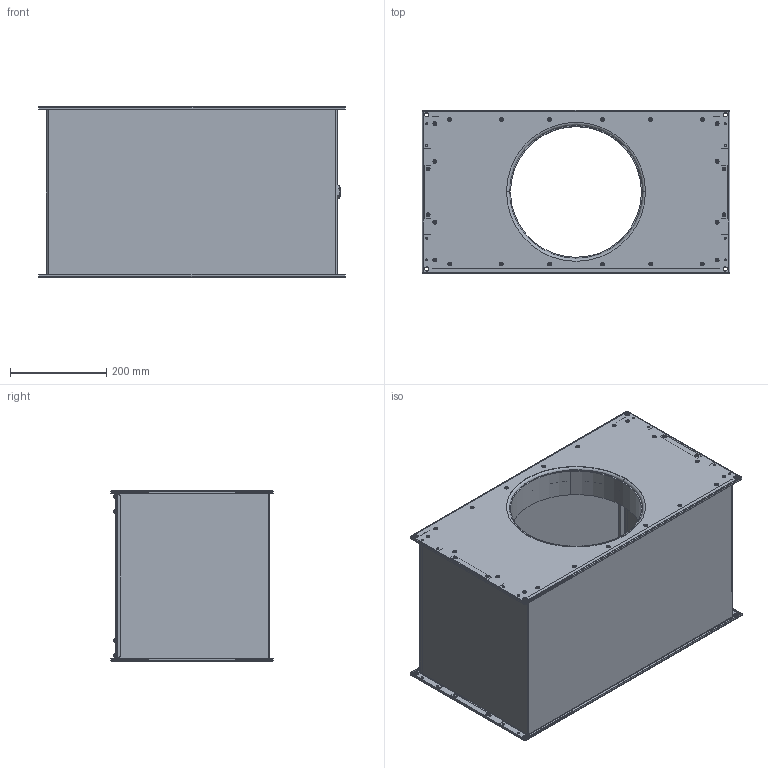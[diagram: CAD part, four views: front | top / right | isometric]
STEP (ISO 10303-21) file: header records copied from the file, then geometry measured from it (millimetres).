
FILE_DESCRIPTION (( 'STEP AP203' ), '1' );
FILE_NAME ('136744-00_EMKI6030EC20.STEP', '2016-04-20T05:17:41', ( '' ), ( '' ), 'SwSTEP 2.0', 'SolidWorks 2012', '' );
FILE_SCHEMA (( 'CONFIG_CONTROL_DESIGN' ));
Length unit declared in the file: millimetre
Products named in the file (1): 136744-00_EMKI6030EC20
Bounding box: 639 x 338 x 355.8 mm (x, y, z)
Surface area: 2135629.6 mm2 (no closed solid volume)
Topology: 0 solids, 117 shells, 661 faces, 2252 edges, 1646 vertices
Faces by surface type: cylinder 346, plane 167, torus 136, bspline 12
Entity records: 26071 total; most frequent: CARTESIAN_POINT 6112, DIRECTION 4588, ORIENTED_EDGE 3254, EDGE_CURVE 2252, AXIS2_PLACEMENT_3D 1898, VERTEX_POINT 1646, CIRCLE 1248, EDGE_LOOP 879
